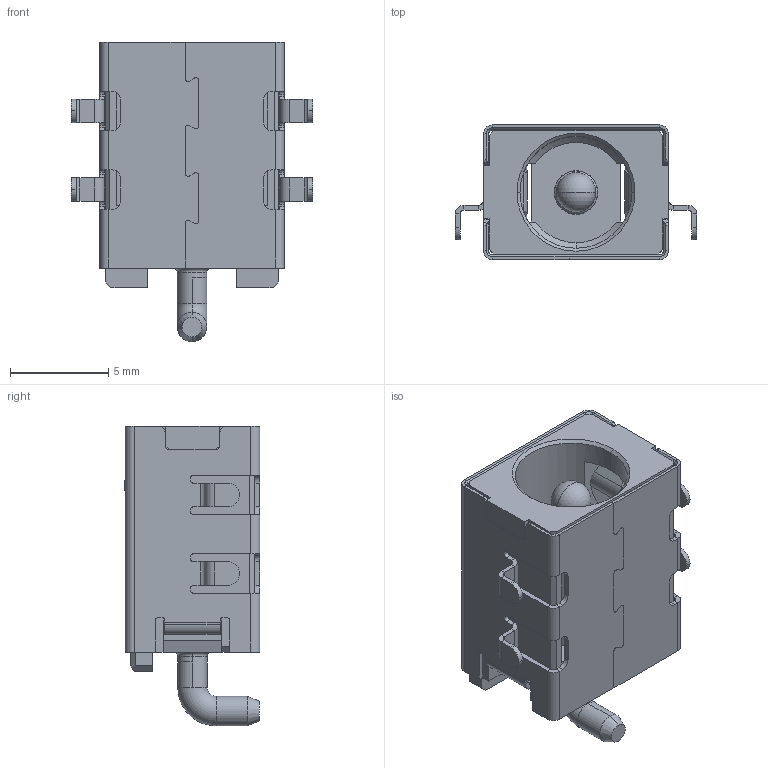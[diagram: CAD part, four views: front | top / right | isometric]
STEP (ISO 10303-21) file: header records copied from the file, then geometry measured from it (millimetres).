
FILE_DESCRIPTION (( 'STEP AP203' ), '1' );
FILE_NAME ('DC-S007C-D0200-15A.STEP', '2023-07-14T09:46:24', ( '' ), ( '' ), 'SwSTEP 2.0', 'SolidWorks 2023', '' );
FILE_SCHEMA (( 'CONFIG_CONTROL_DESIGN' ));
Length unit declared in the file: millimetre
Products named in the file (1): DC-S007C-D0200-15A
Bounding box: 12.3 x 6.9 x 15.25 mm (x, y, z)
Volume: 410.9 mm3; surface area: 1696.6 mm2
Topology: 1 solids, 1 shells, 960 faces, 2633 edges, 1660 vertices
Faces by surface type: plane 597, cylinder 245, bspline 78, cone 34, torus 4, sphere 2
Entity records: 34167 total; most frequent: CARTESIAN_POINT 10148, ORIENTED_EDGE 5258, DIRECTION 4626, EDGE_CURVE 2629, LINE 1830, VECTOR 1830, VERTEX_POINT 1658, AXIS2_PLACEMENT_3D 1398
